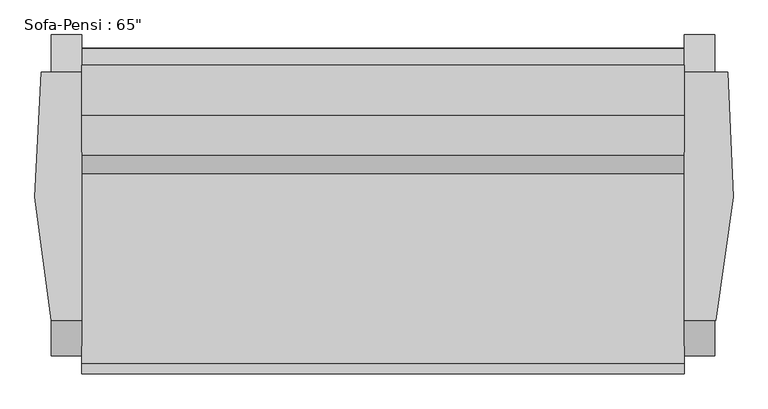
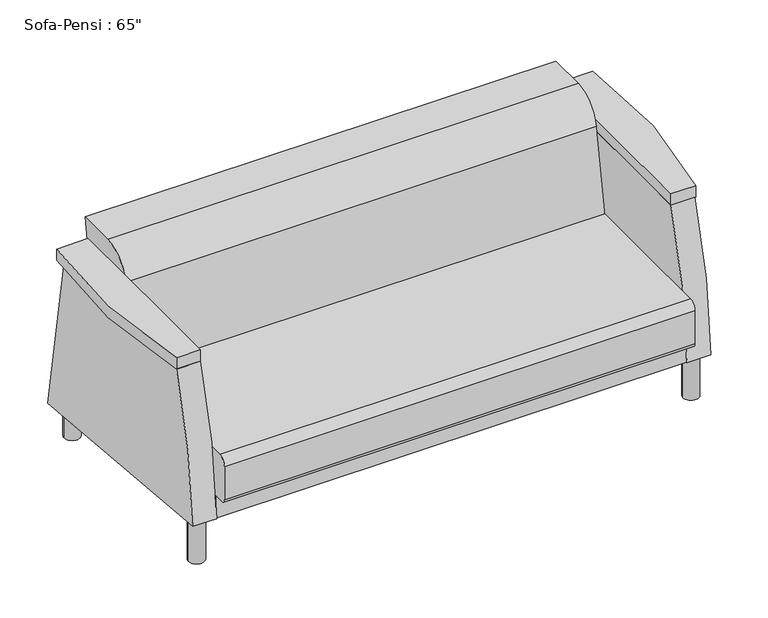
"""IFC4 building model written with IfcOpenShell, lengths in millimetres: furniture geometry."""

from ifc_helpers import new_model, si_unit, point, frame, frame_2d, origin, origin_with_axes, place, context, project, spatial, polyline, circle_curve, trimmed, segment, composite_curve, outline, extrude, source, transform, mapped, element, save


def furniture_7c795298(model_context):
    return source(origin(), model_context, "Body", "SweptSolid", [
        extrude(outline(composite_curve([segment(trimmed(circle_curve(frame_2d((-508.79375, -53.0901639)), 25.4), [point((-534.19375, -53.0901639))], [point((-483.39375, -53.0901639))], False, "CARTESIAN"), True, "CONTINUOUS"), segment(trimmed(circle_curve(frame_2d((-508.79375, -53.0901639)), 25.4), [point((-483.39375, -53.0901639))], [point((-534.19375, -53.0901639))], False, "CARTESIAN"), True, "CONTINUOUS")], self_intersect=False)), origin_with_axes(), (0.0, 0.0, 1.0), 148.43125),
        extrude(outline(composite_curve([segment(trimmed(circle_curve(frame_2d((-508.79375, 632.7098361)), 25.4), [point((-534.19375, 632.7098361))], [point((-483.39375, 632.7098361))], False, "CARTESIAN"), True, "CONTINUOUS"), segment(trimmed(circle_curve(frame_2d((-508.79375, 632.7098361)), 25.4), [point((-483.39375, 632.7098361))], [point((-534.19375, 632.7098361))], False, "CARTESIAN"), True, "CONTINUOUS")], self_intersect=False)), origin_with_axes(), (0.0, 0.0, 1.0), 148.43125),
        extrude(outline(composite_curve([segment(trimmed(circle_curve(frame_2d((1066.00625, 632.7098361)), 25.4), [point((1040.60625, 632.7098361))], [point((1091.40625, 632.7098361))], False, "CARTESIAN"), True, "CONTINUOUS"), segment(trimmed(circle_curve(frame_2d((1066.00625, 632.7098361)), 25.4), [point((1091.40625, 632.7098361))], [point((1040.60625, 632.7098361))], False, "CARTESIAN"), True, "CONTINUOUS")], self_intersect=False)), origin_with_axes(), (0.0, 0.0, 1.0), 148.43125),
        extrude(outline(composite_curve([segment(trimmed(circle_curve(frame_2d((1066.00625, -53.0901639)), 25.4), [point((1040.60625, -53.0901639))], [point((1091.40625, -53.0901639))], False, "CARTESIAN"), True, "CONTINUOUS"), segment(trimmed(circle_curve(frame_2d((1066.00625, -53.0901639)), 25.4), [point((1091.40625, -53.0901639))], [point((1040.60625, -53.0901639))], False, "CARTESIAN"), True, "CONTINUOUS")], self_intersect=False)), origin_with_axes(), (0.0, 0.0, 1.0), 148.43125),
        extrude(outline(polyline([(1027.90625, 668.3047863), (1027.90625, -93.6952137), (-470.69375, -93.6952137), (-470.69375, 668.3047863), (1027.90625, 668.3047863)])), frame((0.0, 0.0, 148.0509954), z_axis=(0.0, 0.0, 1.0), x_axis=(1.0, 0.0, 0.0)), (0.0, 0.0, 1.0), 76.2),
        extrude(outline(composite_curve([segment(polyline([(-9.3943348, 626.0203985), (608.6917937, 626.0203985), (701.7619204, 79.3588346), (-97.7900405, 149.3105671)]), True, "CONTINUOUS"), segment(trimmed(circle_curve(frame_2d((1499.9783711, 99.5888442)), 1598.5418814), [point((-97.7900405, 149.3105671))], [point((-9.3943348, 626.0203985))], False, "CARTESIAN"), True, "CONTINUOUS")], self_intersect=False)), frame((-546.89375, 0.0, 0.0), z_axis=(1.0, 0.0, 0.0), x_axis=(0.0, 1.0, 0.0)), (0.0, 0.0, 1.0), 76.2),
        extrude(outline(composite_curve([segment(polyline([(701.7619204, 79.3588346), (-97.7900405, 149.3105671)]), True, "CONTINUOUS"), segment(trimmed(circle_curve(frame_2d((1499.9783711, 99.5888442)), 1598.5418814), [point((-97.7900405, 149.3105671))], [point((-9.3943348, 626.0203985))], False, "CARTESIAN"), True, "CONTINUOUS"), segment(polyline([(-9.3943348, 626.0203985), (608.6917937, 626.0203985), (701.7619204, 79.3588346)]), True, "CONTINUOUS")], self_intersect=False)), frame((1027.90625, 0.0, 0.0), z_axis=(1.0, 0.0, 0.0), x_axis=(0.0, 1.0, 0.0)), (0.0, 0.0, 1.0), 76.2),
        extrude(outline(composite_curve([segment(trimmed(circle_curve(frame_2d((-116.5901639, 351.2509954)), 25.4), [point((-141.9901639, 351.2509954))], [point((-116.5901639, 376.6509954))], False, "CARTESIAN"), True, "CONTINUOUS"), segment(polyline([(-116.5901639, 376.6509954), (355.3895541, 376.6509954), (402.1988177, 642.1195211)]), True, "CONTINUOUS"), segment(trimmed(circle_curve(frame_2d((502.2552854, 624.4768662)), 101.6), [point((402.1988177, 642.1195211))], [point((502.2552854, 726.0768662))], False, "CARTESIAN"), True, "CONTINUOUS"), segment(polyline([(502.2552854, 726.0768662), (626.3344485, 726.0768662), (609.5377828, 620.1719187), (667.6541767, 224.2509954), (-126.1151639, 224.2509954)]), True, "CONTINUOUS"), segment(trimmed(circle_curve(frame_2d((-126.1151639, 240.1259954)), 15.875), [point((-126.1151639, 224.2509954))], [point((-141.9901639, 240.1259954))], False, "CARTESIAN"), True, "CONTINUOUS"), segment(polyline([(-141.9901639, 240.1259954), (-141.9901639, 351.2509954)]), True, "CONTINUOUS")], self_intersect=False)), frame((-470.69375, 0.0, 0.0), z_axis=(1.0, 0.0, 0.0), x_axis=(0.0, 1.0, 0.0)), (0.0, 0.0, 1.0), 1498.6),
        extrude(outline(composite_curve([segment(polyline([(-470.69375, -9.3943348), (-546.89375, -9.3943348)]), True, "CONTINUOUS"), segment(trimmed(circle_curve(frame_2d((1138.2527561, 369.4210463)), 1727.2), [point((-546.89375, -9.3943348))], [point((-572.29375, 608.6917935))], False, "CARTESIAN"), True, "CONTINUOUS"), segment(polyline([(-572.29375, 608.6917935), (-470.69375, 608.6917935), (-470.69375, -9.3943348)]), True, "CONTINUOUS")], self_intersect=False)), frame((0.0, 0.0, 626.0203985), z_axis=(0.0, 0.0, 1.0), x_axis=(1.0, 0.0, 0.0)), (0.0, 0.0, 1.0), 38.1),
        extrude(outline(composite_curve([segment(polyline([(1027.90625, -9.3943348), (1027.90625, 608.9395268), (1136.5864453, 608.9395268)]), True, "CONTINUOUS"), segment(trimmed(circle_curve(frame_2d((-580.0771494, 383.3125476)), 1731.4275703), [point((1136.5864453, 608.9395268))], [point((1106.2273117, -9.3943348))], False, "CARTESIAN"), True, "CONTINUOUS"), segment(polyline([(1106.2273117, -9.3943348), (1027.90625, -9.3943348)]), True, "CONTINUOUS")], self_intersect=False)), frame((0.0, 0.0, 626.0203985), z_axis=(0.0, 0.0, 1.0), x_axis=(1.0, 0.0, 0.0)), (0.0, 0.0, 1.0), 38.1),
    ])


if __name__ == "__main__":
    model = new_model("IFC4")
    model_context = context("Model", 3, world=origin())
    ifc_project = project(units=[si_unit("LENGTHUNIT", "METRE", prefix="MILLI")], contexts=[model_context])
    site = spatial("IfcSite", under=ifc_project)
    building = spatial("IfcBuilding", under=site)
    placement = place(None, origin())
    furniture_shape = furniture_7c795298(model_context)
    element("IfcFurniture", 1, ObjectType="Sofa-Pensi : 65\"", at=placement, inside=building, context=model_context, shape_type="MappedRepresentation", body=[
        mapped(furniture_shape, transform((0.0, 0.0, 0.0), x_axis=(1.0, 0.0, 0.0), y_axis=(0.0, 1.0, 0.0), z_axis=(0.0, 0.0, 1.0))),
    ])
    save(model, "model.ifc")
